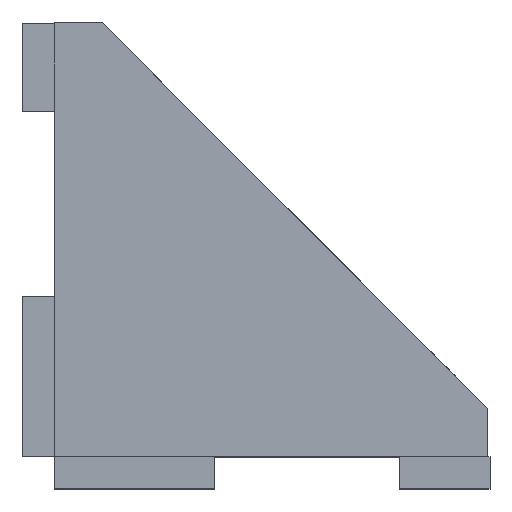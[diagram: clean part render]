
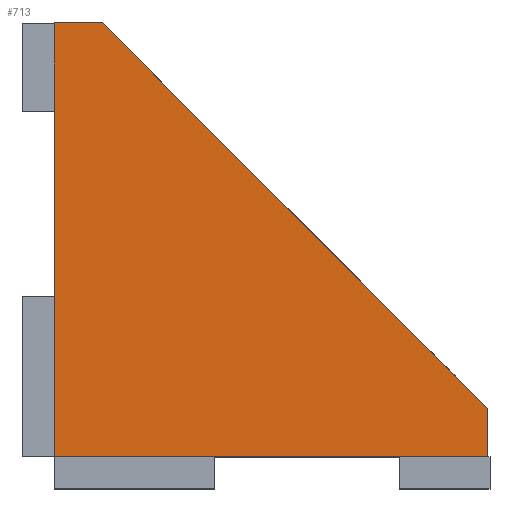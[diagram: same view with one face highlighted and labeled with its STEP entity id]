
A CAD part, top view. The second image highlights one B-rep face of the part: STEP entity #713.
In plain terms, the highlighted planar face has unit normal (0, 0, 1).
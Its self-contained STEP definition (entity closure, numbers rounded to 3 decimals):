
#48=PLANE('',#781);
#79=LINE('',#1060,#162);
#119=LINE('',#1142,#202);
#128=LINE('',#1165,#211);
#130=LINE('',#1168,#213);
#132=LINE('',#1171,#215);
#162=VECTOR('',#868,10.);
#202=VECTOR('',#940,10.);
#211=VECTOR('',#963,10.);
#213=VECTOR('',#967,10.);
#215=VECTOR('',#971,10.);
#265=FACE_OUTER_BOUND('',#310,.T.);
#310=EDGE_LOOP('',(#656,#657,#658,#659,#660));
#348=VERTEX_POINT('',#1057);
#349=VERTEX_POINT('',#1059);
#375=VERTEX_POINT('',#1140);
#381=VERTEX_POINT('',#1162);
#382=VERTEX_POINT('',#1164);
#422=EDGE_CURVE('',#349,#348,#79,.T.);
#463=EDGE_CURVE('',#375,#348,#119,.T.);
#474=EDGE_CURVE('',#382,#381,#128,.T.);
#476=EDGE_CURVE('',#382,#375,#130,.T.);
#478=EDGE_CURVE('',#349,#381,#132,.T.);
#656=ORIENTED_EDGE('',*,*,#474,.T.);
#657=ORIENTED_EDGE('',*,*,#478,.F.);
#658=ORIENTED_EDGE('',*,*,#422,.T.);
#659=ORIENTED_EDGE('',*,*,#463,.F.);
#660=ORIENTED_EDGE('',*,*,#476,.F.);
#713=ADVANCED_FACE('',(#265),#48,.F.);
#781=AXIS2_PLACEMENT_3D('',#1170,#969,#970);
#868=DIRECTION('',(0.,-1.,0.));
#940=DIRECTION('',(-1.,0.,0.));
#963=DIRECTION('',(-0.707,0.707,0.));
#967=DIRECTION('',(0.,-1.,0.));
#969=DIRECTION('center_axis',(0.,0.,-1.));
#970=DIRECTION('ref_axis',(0.,1.,0.));
#971=DIRECTION('',(1.,0.,0.));
#1057=CARTESIAN_POINT('',(-12.,0.,35.));
#1059=CARTESIAN_POINT('',(-12.,27.,35.));
#1060=CARTESIAN_POINT('',(-12.,13.5,35.));
#1140=CARTESIAN_POINT('',(15.,0.,35.));
#1142=CARTESIAN_POINT('',(1.5,0.,35.));
#1162=CARTESIAN_POINT('',(-9.,27.,35.));
#1164=CARTESIAN_POINT('',(15.,3.,35.));
#1165=CARTESIAN_POINT('',(9.,9.,35.));
#1168=CARTESIAN_POINT('',(15.,13.5,35.));
#1170=CARTESIAN_POINT('Origin',(1.5,13.5,35.));
#1171=CARTESIAN_POINT('',(1.5,27.,35.));
